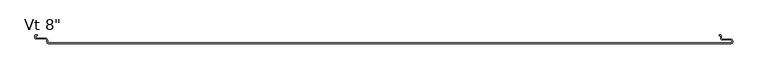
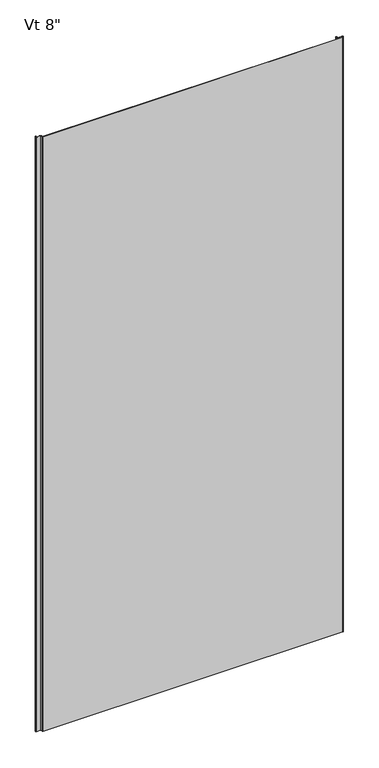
"""IFC4 building model written with IfcOpenShell, lengths in millimetres: plate geometry."""

import ifcopenshell
import ifcopenshell.guid

model = None  # the IFC model being written
_history = None  # IfcOwnerHistory: only IFC2X3 demands one
_inside = {}  # id of a spatial element -> (the spatial element, [elements in it])
_under = {}  # id of a project, library or spatial element -> (it, [spatial elements below it])
_declared = {}  # id of a project -> (the project, [libraries it declares])
_typed = {}  # id of a type object -> (the type object, [elements of that type])
_made_of = {}  # id of a material, layer set ... -> (it, [elements and type objects made of it])


def new_model(schema):
    """Start an empty IFC model of exactly this schema.

    Asked for "IFC4X3", IfcOpenShell would pick the latest addendum, in which some entities
    have other attributes; the version numbers below select the first issue.
    IFC2X3 requires an IfcOwnerHistory on every rooted entity: one is made here for all.
    """
    global model, _history
    if schema == "IFC4X3":
        model = ifcopenshell.file(schema_version=(4, 3, 0, 0))
    else:
        model = ifcopenshell.file(schema=schema)
    _inside.clear()
    _under.clear()
    _declared.clear()
    _typed.clear()
    _made_of.clear()
    _history = None
    if model.schema == "IFC2X3":
        org = make("IfcOrganization", Name="unknown")
        user = make(
            "IfcPersonAndOrganization",
            ThePerson=make("IfcPerson", FamilyName="unknown"),
            TheOrganization=org,
        )
        app = make(
            "IfcApplication",
            ApplicationDeveloper=org,
            Version="unknown",
            ApplicationFullName="unknown",
            ApplicationIdentifier="unknown",
        )
        _history = make(
            "IfcOwnerHistory",
            OwningUser=user,
            OwningApplication=app,
            ChangeAction="ADDED",
            CreationDate=0,
        )
    return model


def make(cls, **values):
    """One entity of the class cls with the attributes given. An attribute that is None is left unset."""
    return model.create_entity(
        cls, **{name: value for name, value in values.items() if value is not None}
    )


def rooted(cls, **values):
    """An entity with a GlobalId (a new one), such as an element, a storey or a relation."""
    return make(cls, GlobalId=ifcopenshell.guid.new(), OwnerHistory=_history, **values)


def si_unit(unit_type, name, prefix=None):
    """IfcSIUnit, for example si_unit("LENGTHUNIT", "METRE", prefix="MILLI")."""
    return make("IfcSIUnit", UnitType=unit_type, Prefix=prefix, Name=name)


def assignment(units):
    """IfcUnitAssignment: the units of a project."""
    return None if units is None else make("IfcUnitAssignment", Units=units)


def point(xyz):
    """IfcCartesianPoint."""
    return None if xyz is None else make("IfcCartesianPoint", Coordinates=xyz)


def direction(xyz):
    """IfcDirection."""
    return None if xyz is None else make("IfcDirection", DirectionRatios=xyz)


def frame(location, z_axis=None, x_axis=None):
    """IfcAxis2Placement3D, a coordinate frame: its origin and axes. An axis left out is left unset."""
    return make(
        "IfcAxis2Placement3D",
        Location=point(location),
        Axis=direction(z_axis),
        RefDirection=direction(x_axis),
    )


def origin():
    """The frame at (0, 0, 0) with its axes left unset."""
    return frame((0.0, 0.0, 0.0))


def place(relative_to, where):
    """IfcLocalPlacement: puts the frame where relative to a parent placement (None: the world)."""
    return make(
        "IfcLocalPlacement", PlacementRelTo=relative_to, RelativePlacement=where
    )


def context(
    kind, dimensions, precision=None, world=None, true_north=None, identifier=None
):
    """IfcGeometricRepresentationContext, for example the 3D "Model" context."""
    return make(
        "IfcGeometricRepresentationContext",
        ContextIdentifier=identifier,
        ContextType=kind,
        CoordinateSpaceDimension=dimensions,
        Precision=precision,
        WorldCoordinateSystem=world,
        TrueNorth=true_north,
    )


def project(units=None, contexts=None):
    """IfcProject with its units and contexts."""
    return rooted(
        "IfcProject",
        Name="project",
        RepresentationContexts=contexts,
        UnitsInContext=assignment(units),
    )


def spatial(cls, under=None, at=None, **own):
    """A site, building, storey or space (cls), placed at a placement, below another one or the project."""
    s = rooted(cls, ObjectPlacement=at, **own)
    if under is not None:
        _under.setdefault(under.id(), (under, []))[1].append(s)
    return s


def polyline(points):
    """IfcPolyline through the points."""
    return make("IfcPolyline", Points=[point(p) for p in points])


def circle_curve(where, radius):
    """IfcCircle in the frame where."""
    return make("IfcCircle", Position=where, Radius=radius)


def shape(context_of_items, identifier, shape_type, items):
    """IfcShapeRepresentation: the items that make up one representation, for example the "Body"."""
    return make(
        "IfcShapeRepresentation",
        ContextOfItems=context_of_items,
        RepresentationIdentifier=identifier,
        RepresentationType=shape_type,
        Items=items,
    )


def source(mapping_origin, context_of_items, identifier, shape_type, items):
    """IfcRepresentationMap: a shape defined once, which mapped items show again and again."""
    return make(
        "IfcRepresentationMap",
        MappingOrigin=mapping_origin,
        MappedRepresentation=shape(context_of_items, identifier, shape_type, items),
    )


def transform(
    local_origin,
    x_axis=None,
    y_axis=None,
    z_axis=None,
    scale=None,
    scale2=None,
    scale3=None,
    uniform=True,
):
    """IfcCartesianTransformationOperator3D, or its non-uniform kind. x_axis, y_axis, z_axis: its Axis1, 2, 3."""
    if uniform:
        return make(
            "IfcCartesianTransformationOperator3D",
            Axis1=direction(x_axis),
            Axis2=direction(y_axis),
            LocalOrigin=point(local_origin),
            Scale=scale,
            Axis3=direction(z_axis),
        )
    return make(
        "IfcCartesianTransformationOperator3DnonUniform",
        Axis1=direction(x_axis),
        Axis2=direction(y_axis),
        LocalOrigin=point(local_origin),
        Scale=scale,
        Axis3=direction(z_axis),
        Scale2=scale2,
        Scale3=scale3,
    )


def mapped(mapping_source, mapping_target):
    """IfcMappedItem: shows the shape of a source again, moved by a transform."""
    return make(
        "IfcMappedItem", MappingSource=mapping_source, MappingTarget=mapping_target
    )


def made_of(thing, what):
    """Note that an element or type object is made of a material, layer set ...; save() writes the relation."""
    if what is not None:
        _made_of.setdefault(what.id(), (what, []))[1].append(thing)
    return thing


def element(
    cls,
    number,
    at=None,
    inside=None,
    cuts=None,
    type_object=None,
    material=None,
    context=None,
    identifier="Body",
    shape_type=None,
    held_by="IfcProductDefinitionShape",
    body=None,
    shapes=None,
    **own,
):
    """One element of the class cls, such as IfcWall. Its Tag is "e" and its number.

    at: its placement. inside: the storey or other place that contains it. cuts: it is an
    opening in that element (IfcRelVoidsElement). A single representation is given by context,
    identifier, shape_type and body (its items); several are given by shapes. held_by: the class
    of the entity that holds the representations. save() writes the other relations.
    """
    e = rooted(cls, Tag="e%d" % number, ObjectPlacement=at, **own)
    if body is not None:
        shapes = [shape(context, identifier, shape_type, body)]
    if shapes is not None:
        e.Representation = make(held_by, Representations=shapes)
    if inside is not None:
        _inside.setdefault(inside.id(), (inside, []))[1].append(e)
    if cuts is not None:
        rooted(
            "IfcRelVoidsElement", RelatingBuildingElement=cuts, RelatedOpeningElement=e
        )
    if type_object is not None:
        _typed.setdefault(type_object.id(), (type_object, []))[1].append(e)
    return made_of(e, material)


def aggregate(whole, parts):
    """IfcRelAggregates: a whole, such as a stair, and the parts it consists of."""
    return rooted("IfcRelAggregates", RelatingObject=whole, RelatedObjects=parts)


def save(model, path):
    """Write the relations noted so far, then the file.

    IfcRelAggregates (storeys below a building ...), IfcRelContainedInSpatialStructure (elements
    in a storey), IfcRelDefinesByType, IfcRelAssociatesMaterial and IfcRelDeclares: one each for
    every whole, place, type object, material and project.
    """
    for whole, parts in _under.values():
        aggregate(whole, parts)
    for where, things in _inside.values():
        rooted(
            "IfcRelContainedInSpatialStructure",
            RelatedElements=things,
            RelatingStructure=where,
        )
    for kind, things in _typed.values():
        rooted("IfcRelDefinesByType", RelatedObjects=things, RelatingType=kind)
    for what, things in _made_of.values():
        rooted("IfcRelAssociatesMaterial", RelatedObjects=things, RelatingMaterial=what)
    for by, libraries in _declared.values():
        rooted("IfcRelDeclares", RelatingContext=by, RelatedDefinitions=libraries)
    model.write(path)


def plane_surface(at):
    """IfcPlane: the flat surface through the origin of the frame at, square to its z axis."""
    return make("IfcPlane", Position=at)


def cylinder_surface(at, radius):
    """IfcCylindricalSurface: all points at the distance radius from the z axis of the frame at."""
    return make("IfcCylindricalSurface", Position=at, Radius=radius)


def revolved_surface(curve, axis_point, axis_direction):
    """IfcSurfaceOfRevolution: the curve turned about the line through axis_point along axis_direction."""
    return make(
        "IfcSurfaceOfRevolution",
        SweptCurve=make("IfcArbitraryOpenProfileDef", ProfileType="CURVE", Curve=curve),
        AxisPosition=make("IfcAxis1Placement", Location=point(axis_point), Axis=direction(axis_direction)),
    )


def advanced_brep(points, edges, surfaces, faces):
    """IfcAdvancedBrep: a solid bounded by faces that lie on surfaces and meet in shared edges.

    An edge is (start, end): straight between two places in points (the first is 0);
    or (start, end, curve); or (start, end, curve, False) where it runs against its curve.
    A face is (place in surfaces, loops), or (place, loops, False) where it looks against
    its surface's normal. A loop lists edges by number (the first is 1), with a minus sign
    where the edge is run from its end to its start. The first loop is the outer one.
    """
    corners = [point(p) for p in points]
    vertices = [make("IfcVertexPoint", VertexGeometry=c) for c in corners]
    made = []
    for start, end, *more in edges:
        made.append(
            make(
                "IfcEdgeCurve",
                EdgeStart=vertices[start],
                EdgeEnd=vertices[end],
                EdgeGeometry=more[0] if more else make("IfcPolyline", Points=[corners[start], corners[end]]),
                SameSense=more[1] if len(more) > 1 else True,
            )
        )
    hull = []
    for where, loops, *sense in faces:
        bounds = []
        for j, loop in enumerate(loops):
            ring = [make("IfcOrientedEdge", EdgeElement=made[abs(k) - 1], Orientation=k > 0) for k in loop]
            bounds.append(
                make(
                    "IfcFaceOuterBound" if j == 0 else "IfcFaceBound",
                    Bound=make("IfcEdgeLoop", EdgeList=ring),
                    Orientation=True,
                )
            )
        hull.append(make("IfcAdvancedFace", Bounds=bounds, FaceSurface=surfaces[where], SameSense=sense[0] if sense else True))
    return make("IfcAdvancedBrep", Outer=make("IfcClosedShell", CfsFaces=hull))


def plate_8b274d8f(model_context):
    return source(origin(), model_context, "Body", "AdvancedBrep", [
        advanced_brep(
        [(-572.4123937, -200.2223811, 2400.0), (-572.4123937, -197.9308685, 2400.0), (-576.3897391, -193.9535232, 2400.0), (-591.9862514, -193.9535232, 2400.0), (-592.5741086, -193.365666, 2400.0), (-592.5741086, -190.2941346, 2400.0), (-591.9862374, -189.7062635, 2400.0), (-589.6312064, -189.7062635, 2400.0), (-589.6312064, -188.7062599, 2400.0), (-591.9862419, -188.7062599, 2400.0), (-593.5741185, -190.2941364, 2400.0), (-593.5741185, -193.3656851, 2400.0), (-591.9862419, -194.9535616, 2400.0), (-576.3898159, -194.9535616, 2400.0), (-573.4125474, -197.9308302, 2400.0), (-573.4125474, -200.222714, 2400.0), (-570.4352789, -203.1999825, 2400.0), (574.5475652, -203.2, 2400.0), (577.5248337, -200.2227315, 2400.0), (577.5248337, -199.1806329, 2400.0), (574.5475652, -196.2033644, 2400.0), (560.3591801, -196.2033644, 2400.0), (558.7713036, -194.6154878, 2400.0), (558.7713036, -190.2950697, 2400.0), (557.1304042, -188.7066023, 2400.0), (554.7857432, -188.7066023, 2400.0), (554.7857432, -189.7060472, 2400.0), (557.1628599, -189.7060472, 2400.0), (557.7713971, -190.2950842, 2400.0), (557.7713971, -194.6153166, 2400.0), (560.3590971, -197.2030166, 2400.0), (574.5482568, -197.2030166, 2400.0), (576.5262182, -199.180978, 2400.0), (576.5262182, -200.22341, 2400.0), (574.550337, -202.1992912, 2400.0), (-570.4354837, -202.1992912, 2400.0), (-572.4123937, -200.2223811, 0.0), (-570.4354837, -202.1992912, 0.0), (574.550337, -202.1992912, 0.0), (576.5262182, -200.22341, 0.0), (576.5262182, -199.180978, 0.0), (574.5482568, -197.2030166, 0.0), (560.3590971, -197.2030166, 0.0), (557.7713971, -194.6153166, 0.0), (557.7713971, -190.2950842, 0.0), (557.1628599, -189.7060472, 0.0), (554.7857432, -189.7060472, 0.0), (554.7857432, -188.7066023, 0.0), (557.1304042, -188.7066023, 0.0), (558.7713036, -190.2950697, 0.0), (558.7713036, -194.6154878, 0.0), (560.3591801, -196.2033644, 0.0), (574.5475652, -196.2033644, 0.0), (577.5248337, -199.1806329, 0.0), (577.5248337, -200.2227315, 0.0), (574.5475652, -203.2, 0.0), (-570.4352789, -203.2, 0.0), (-573.4125474, -200.222714, 0.0), (-573.4125474, -197.9308302, 0.0), (-576.3898159, -194.9535616, 0.0), (-591.9862419, -194.9535616, 0.0), (-593.5741185, -193.3656851, 0.0), (-593.5741185, -190.2941364, 0.0), (-591.9862419, -188.7062599, 0.0), (-589.6312064, -188.7062599, 0.0), (-589.6312064, -189.7062635, 0.0), (-591.9862374, -189.7062635, 0.0), (-592.5741086, -190.2941346, 0.0), (-592.5741086, -193.365666, 0.0), (-591.9862514, -193.9535232, 0.0), (-576.3897391, -193.9535232, 0.0), (-572.4123937, -197.9308685, 0.0)],
        [
            (0, 1),
            (1, 2, circle_curve(frame((-576.3897391, -197.9308685, 2400.0), z_axis=(0.0, 0.0, 1.0), x_axis=(-1.0, 0.0, 0.0)), 3.9773454)),
            (2, 3),
            (3, 4, circle_curve(frame((-591.9862514, -193.365666, 2400.0), z_axis=(0.0, 0.0, -1.0), x_axis=(-1.0, 0.0, 0.0)), 0.5878572)),
            (4, 5),
            (5, 6, circle_curve(frame((-591.9862374, -190.2941346, 2400.0), z_axis=(0.0, 0.0, -1.0), x_axis=(-1.0, 0.0, 0.0)), 0.5878711)),
            (6, 7),
            (7, 8),
            (8, 9),
            (9, 10, circle_curve(frame((-591.9862419, -190.2941364, 2400.0), z_axis=(0.0, 0.0, 1.0), x_axis=(-1.0, 0.0, 0.0)), 1.5878765)),
            (10, 11),
            (11, 12, circle_curve(frame((-591.9862419, -193.3656851, 2400.0), z_axis=(0.0, 0.0, 1.0), x_axis=(-1.0, 0.0, 0.0)), 1.5878765)),
            (12, 13),
            (13, 14, circle_curve(frame((-576.3898159, -197.9308302, 2400.0), z_axis=(0.0, 0.0, -1.0), x_axis=(-1.0, 0.0, 0.0)), 2.9772685)),
            (14, 15),
            (15, 16, circle_curve(frame((-570.4352789, -200.222714, 2400.0), z_axis=(0.0, 0.0, 1.0), x_axis=(-1.0, 0.0, 0.0)), 2.9772685)),
            (16, 17),
            (17, 18, circle_curve(frame((574.5475652, -200.2227315, 2400.0), z_axis=(0.0, 0.0, 1.0), x_axis=(-1.0, 0.0, 0.0)), 2.9772685)),
            (18, 19),
            (19, 20, circle_curve(frame((574.5475652, -199.1806329, 2400.0), z_axis=(0.0, 0.0, 1.0), x_axis=(-1.0, 0.0, 0.0)), 2.9772685)),
            (20, 21),
            (21, 22, circle_curve(frame((560.3591801, -194.6154878, 2400.0), z_axis=(0.0, 0.0, -1.0), x_axis=(-1.0, 0.0, 0.0)), 1.5878765)),
            (22, 23),
            (23, 24, circle_curve(frame((557.1819985, -190.2950697, 2400.0), z_axis=(0.0, 0.0, 1.0), x_axis=(-1.0, 0.0, 0.0)), 1.5893051)),
            (24, 25),
            (25, 26),
            (26, 27),
            (27, 28, circle_curve(frame((557.1820477, -190.2950842, 2400.0), z_axis=(0.0, 0.0, -1.0), x_axis=(-1.0, 0.0, 0.0)), 0.5893495)),
            (28, 29),
            (29, 30, circle_curve(frame((560.3590971, -194.6153166, 2400.0), z_axis=(0.0, 0.0, 1.0), x_axis=(-1.0, 0.0, 0.0)), 2.5877)),
            (30, 31),
            (31, 32, circle_curve(frame((574.5482568, -199.180978, 2400.0), z_axis=(0.0, 0.0, -1.0), x_axis=(-1.0, 0.0, 0.0)), 1.9779614)),
            (32, 33),
            (33, 34, circle_curve(frame((574.550337, -200.22341, 2400.0), z_axis=(0.0, 0.0, -1.0), x_axis=(-1.0, 0.0, 0.0)), 1.9758812)),
            (34, 35),
            (35, 0, circle_curve(frame((-570.4354837, -200.2223811, 2400.0), z_axis=(0.0, 0.0, -1.0), x_axis=(-1.0, 0.0, 0.0)), 1.9769101)),
            (36, 37, circle_curve(frame((-570.4354837, -200.2223811, 0.0), z_axis=(0.0, 0.0, 1.0), x_axis=(-1.0, 0.0, 0.0)), 1.9769101)),
            (37, 38),
            (38, 39, circle_curve(frame((574.550337, -200.22341, 0.0), z_axis=(0.0, 0.0, 1.0), x_axis=(-1.0, 0.0, 0.0)), 1.9758812)),
            (39, 40),
            (40, 41, circle_curve(frame((574.5482568, -199.180978, 0.0), z_axis=(0.0, 0.0, 1.0), x_axis=(-1.0, 0.0, 0.0)), 1.9779614)),
            (41, 42),
            (42, 43, circle_curve(frame((560.3590971, -194.6153166, 0.0), z_axis=(0.0, 0.0, -1.0), x_axis=(-1.0, 0.0, 0.0)), 2.5877)),
            (43, 44),
            (44, 45, circle_curve(frame((557.1820477, -190.2950842, 0.0), z_axis=(0.0, 0.0, 1.0), x_axis=(-1.0, 0.0, 0.0)), 0.5893495)),
            (45, 46),
            (46, 47),
            (47, 48),
            (48, 49, circle_curve(frame((557.1819985, -190.2950697, 0.0), z_axis=(0.0, 0.0, -1.0), x_axis=(-1.0, 0.0, 0.0)), 1.5893051)),
            (49, 50),
            (50, 51, circle_curve(frame((560.3591801, -194.6154878, 0.0), z_axis=(0.0, 0.0, 1.0), x_axis=(-1.0, 0.0, 0.0)), 1.5878765)),
            (51, 52),
            (52, 53, circle_curve(frame((574.5475652, -199.1806329, 0.0), z_axis=(0.0, 0.0, -1.0), x_axis=(-1.0, 0.0, 0.0)), 2.9772685)),
            (53, 54),
            (54, 55, circle_curve(frame((574.5475652, -200.2227315, 0.0), z_axis=(0.0, 0.0, -1.0), x_axis=(-1.0, 0.0, 0.0)), 2.9772685)),
            (55, 56),
            (56, 57, circle_curve(frame((-570.4352789, -200.222714, 0.0), z_axis=(0.0, 0.0, -1.0), x_axis=(-1.0, 0.0, 0.0)), 2.9772685)),
            (57, 58),
            (58, 59, circle_curve(frame((-576.3898159, -197.9308302, 0.0), z_axis=(0.0, 0.0, 1.0), x_axis=(-1.0, 0.0, 0.0)), 2.9772685)),
            (59, 60),
            (60, 61, circle_curve(frame((-591.9862419, -193.3656851, 0.0), z_axis=(0.0, 0.0, -1.0), x_axis=(-1.0, 0.0, 0.0)), 1.5878765)),
            (61, 62),
            (62, 63, circle_curve(frame((-591.9862419, -190.2941364, 0.0), z_axis=(0.0, 0.0, -1.0), x_axis=(-1.0, 0.0, 0.0)), 1.5878765)),
            (63, 64),
            (64, 65),
            (65, 66),
            (66, 67, circle_curve(frame((-591.9862374, -190.2941346, 0.0), z_axis=(0.0, 0.0, 1.0), x_axis=(-1.0, 0.0, 0.0)), 0.5878711)),
            (67, 68),
            (68, 69, circle_curve(frame((-591.9862514, -193.365666, 0.0), z_axis=(0.0, 0.0, 1.0), x_axis=(-1.0, 0.0, 0.0)), 0.5878572)),
            (69, 70),
            (70, 71, circle_curve(frame((-576.3897391, -197.9308685, 0.0), z_axis=(0.0, 0.0, -1.0), x_axis=(-1.0, 0.0, 0.0)), 3.9773454)),
            (71, 36),
            (23, 49),
            (48, 24),
            (22, 50),
            (21, 51),
            (20, 52),
            (19, 53),
            (17, 55),
            (54, 18),
            (32, 40),
            (39, 33),
            (38, 34),
            (16, 56),
            (37, 35),
            (36, 0),
            (71, 1),
            (70, 2),
            (69, 3),
            (4, 68),
            (67, 5),
            (66, 6),
            (65, 7),
            (64, 8),
            (63, 9),
            (62, 10),
            (61, 11),
            (60, 12),
            (59, 13),
            (58, 14),
            (57, 15),
            (31, 41),
            (30, 42),
            (29, 43),
            (28, 44),
            (27, 45),
            (26, 46),
            (25, 47),
        ],
        [
            plane_surface(frame((0.0, -203.2, 2400.0), z_axis=(0.0, 0.0, 1.0), x_axis=(0.0, -1.0, 0.0))),
            plane_surface(frame((0.0, -203.2, 0.0), z_axis=(0.0, 0.0, -1.0), x_axis=(0.0, -1.0, 0.0))),
            cylinder_surface(frame((557.1819985, -190.2950697, 2400.0), z_axis=(0.0, 0.0, 1.0), x_axis=(-1.0, 0.0, 0.0)), 1.5893051),
            plane_surface(frame((558.7713036, -190.2950697, 2400.0), z_axis=(1.0, 0.0, 0.0), x_axis=(0.0, 0.0, -1.0))),
            revolved_surface(polyline([(558.7713036, -194.6154878, 0.0), (558.7713036, -194.6154878, 2400.0)]), (560.3591801, -194.6154878, 2400.0), (0.0, 0.0, -1.0)),
            plane_surface(frame((560.3591801, -196.2033644, 2400.0), z_axis=(0.0, 1.0, 0.0), x_axis=(0.0, 0.0, -1.0))),
            cylinder_surface(frame((574.5475652, -199.1806329, 2400.0), z_axis=(0.0, 0.0, 1.0), x_axis=(-1.0, 0.0, 0.0)), 2.9772685),
            cylinder_surface(frame((574.5475652, -200.2227315, 2400.0), z_axis=(0.0, 0.0, 1.0), x_axis=(-1.0, 0.0, 0.0)), 2.9772685),
            plane_surface(frame((576.5262182, -200.22341, 2400.0), z_axis=(-1.0, 0.0, 0.0), x_axis=(0.0, 0.0, -1.0))),
            plane_surface(frame((577.5248337, -199.1806329, 2400.0), z_axis=(1.0, 0.0, 0.0), x_axis=(0.0, 0.0, -1.0))),
            revolved_surface(polyline([(572.5744558, -200.22341, 0.0), (572.5744558, -200.22341, 2400.0)]), (574.550337, -200.22341, 2400.0), (0.0, 0.0, -1.0)),
            plane_surface(frame((574.5475652, -203.2, 2400.0), z_axis=(0.0, -1.0, 0.0), x_axis=(0.0, 0.0, -1.0))),
            plane_surface(frame((-570.4354837, -202.1992912, 2400.0), z_axis=(0.0, 1.0, 0.0), x_axis=(0.0, 0.0, -1.0))),
            revolved_surface(polyline([(-572.4123938, -200.2223811, 0.0), (-572.4123938, -200.2223811, 2400.0)]), (-570.4354837, -200.2223811, 2400.0), (0.0, 0.0, -1.0)),
            plane_surface(frame((-572.4123937, -197.9308685, 2400.0), z_axis=(1.0, 0.0, 0.0), x_axis=(0.0, 0.0, -1.0))),
            cylinder_surface(frame((-576.3897391, -197.9308685, 2400.0), z_axis=(0.0, 0.0, 1.0), x_axis=(-1.0, 0.0, 0.0)), 3.9773454),
            plane_surface(frame((-591.9862514, -193.9535232, 2400.0), z_axis=(0.0, 1.0, 0.0), x_axis=(0.0, 0.0, -1.0))),
            plane_surface(frame((-592.5741086, -190.2941346, 2400.0), z_axis=(1.0, 0.0, 0.0), x_axis=(0.0, 0.0, -1.0))),
            revolved_surface(polyline([(-592.5741085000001, -190.2941346, 0.0), (-592.5741085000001, -190.2941346, 2400.0)]), (-591.9862374, -190.2941346, 2400.0), (0.0, 0.0, -1.0)),
            plane_surface(frame((-589.6312064, -189.7062635, 2400.0), z_axis=(0.0, -1.0, 0.0), x_axis=(0.0, 0.0, -1.0))),
            plane_surface(frame((-589.6312064, -188.7062599, 2400.0), z_axis=(1.0, 0.0, 0.0), x_axis=(0.0, 0.0, -1.0))),
            plane_surface(frame((-591.9862419, -188.7062599, 2400.0), z_axis=(0.0, 1.0, 0.0), x_axis=(0.0, 0.0, -1.0))),
            cylinder_surface(frame((-591.9862419, -190.2941364, 2400.0), z_axis=(0.0, 0.0, 1.0), x_axis=(-1.0, 0.0, 0.0)), 1.5878765),
            plane_surface(frame((-593.5741185, -193.3656851, 2400.0), z_axis=(-1.0, 0.0, 0.0), x_axis=(0.0, 0.0, -1.0))),
            cylinder_surface(frame((-591.9862419, -193.3656851, 2400.0), z_axis=(0.0, 0.0, 1.0), x_axis=(-1.0, 0.0, 0.0)), 1.5878765),
            plane_surface(frame((-576.3898159, -194.9535616, 2400.0), z_axis=(0.0, -1.0, 0.0), x_axis=(0.0, 0.0, -1.0))),
            revolved_surface(polyline([(-579.3670844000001, -197.9308302, 0.0), (-579.3670844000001, -197.9308302, 2400.0)]), (-576.3898159, -197.9308302, 2400.0), (0.0, 0.0, -1.0)),
            plane_surface(frame((-573.4125474, -200.222714, 2400.0), z_axis=(-1.0, 0.0, 0.0), x_axis=(0.0, 0.0, -1.0))),
            cylinder_surface(frame((-570.4352789, -200.222714, 2400.0), z_axis=(0.0, 0.0, 1.0), x_axis=(-1.0, 0.0, 0.0)), 2.9772685),
            revolved_surface(polyline([(-592.5741086, -193.365666, 0.0), (-592.5741086, -193.365666, 2400.0)]), (-591.9862514, -193.365666, 2400.0), (0.0, 0.0, -1.0)),
            revolved_surface(polyline([(572.5702954, -199.180978, 0.0), (572.5702954, -199.180978, 2400.0)]), (574.5482568, -199.180978, 2400.0), (0.0, 0.0, -1.0)),
            plane_surface(frame((574.5482568, -197.2030166, 2400.0), z_axis=(0.0, -1.0, 0.0), x_axis=(0.0, 0.0, -1.0))),
            cylinder_surface(frame((560.3590971, -194.6153166, 2400.0), z_axis=(0.0, 0.0, 1.0), x_axis=(-1.0, 0.0, 0.0)), 2.5877),
            plane_surface(frame((557.7713971, -194.6153166, 2400.0), z_axis=(-1.0, 0.0, 0.0), x_axis=(0.0, 0.0, -1.0))),
            revolved_surface(polyline([(556.5926982, -190.2950842, 0.0), (556.5926982, -190.2950842, 2400.0)]), (557.1820477, -190.2950842, 2400.0), (0.0, 0.0, -1.0)),
            plane_surface(frame((557.1628599, -189.7060472, 2400.0), z_axis=(0.0, -1.0, 0.0), x_axis=(0.0, 0.0, -1.0))),
            plane_surface(frame((554.7857432, -189.7060472, 2400.0), z_axis=(-1.0, 0.0, 0.0), x_axis=(0.0, 0.0, -1.0))),
            plane_surface(frame((554.7857432, -188.7066023, 2400.0), z_axis=(0.0, 1.0, 0.0), x_axis=(0.0, 0.0, -1.0))),
        ],
        [
            (0, [[1, 2, 3, 4, 5, 6, 7, 8, 9, 10, 11, 12, 13, 14, 15, 16, 17, 18, 19, 20, 21, 22, 23, 24, 25, 26, 27, 28, 29, 30, 31, 32, 33, 34, 35, 36]]),
            (1, [[37, 38, 39, 40, 41, 42, 43, 44, 45, 46, 47, 48, 49, 50, 51, 52, 53, 54, 55, 56, 57, 58, 59, 60, 61, 62, 63, 64, 65, 66, 67, 68, 69, 70, 71, 72]]),
            (2, [[73, -49, 74, -24]]),
            (3, [[75, -50, -73, -23]]),
            (4, [[76, -51, -75, -22]]),
            (5, [[77, -52, -76, -21]]),
            (6, [[78, -53, -77, -20]]),
            (7, [[79, -55, 80, -18]]),
            (8, [[81, -40, 82, -33]]),
            (9, [[-80, -54, -78, -19]]),
            (10, [[-82, -39, 83, -34]]),
            (11, [[84, -56, -79, -17]]),
            (12, [[-83, -38, 85, -35]]),
            (13, [[-85, -37, 86, -36]]),
            (14, [[-86, -72, 87, -1]]),
            (15, [[-87, -71, 88, -2]]),
            (16, [[-88, -70, 89, -3]]),
            (17, [[90, -68, 91, -5]]),
            (18, [[-91, -67, 92, -6]]),
            (19, [[-92, -66, 93, -7]]),
            (20, [[-93, -65, 94, -8]]),
            (21, [[-94, -64, 95, -9]]),
            (22, [[-95, -63, 96, -10]]),
            (23, [[-96, -62, 97, -11]]),
            (24, [[-97, -61, 98, -12]]),
            (25, [[-98, -60, 99, -13]]),
            (26, [[-99, -59, 100, -14]]),
            (27, [[-100, -58, 101, -15]]),
            (28, [[-101, -57, -84, -16]]),
            (29, [[-89, -69, -90, -4]]),
            (30, [[102, -41, -81, -32]]),
            (31, [[103, -42, -102, -31]]),
            (32, [[104, -43, -103, -30]]),
            (33, [[105, -44, -104, -29]]),
            (34, [[106, -45, -105, -28]]),
            (35, [[107, -46, -106, -27]]),
            (36, [[108, -47, -107, -26]]),
            (37, [[-74, -48, -108, -25]]),
        ],
    ),
    ])


if __name__ == "__main__":
    model = new_model("IFC4")
    model_context = context("Model", 3, world=origin())
    ifc_project = project(units=[si_unit("LENGTHUNIT", "METRE", prefix="MILLI")], contexts=[model_context])
    site = spatial("IfcSite", under=ifc_project)
    building = spatial("IfcBuilding", under=site)
    placement = place(None, origin())
    plate_shape = plate_8b274d8f(model_context)
    element("IfcPlate", 1, ObjectType="KIP-SLI-FLI-R19-CP-Vt-FL_SL : Vt 8\"", at=placement, inside=building, context=model_context, shape_type="MappedRepresentation", body=[
        mapped(plate_shape, transform((0.0, 0.0, 0.0), x_axis=(1.0, 0.0, 0.0), y_axis=(0.0, 1.0, 0.0), z_axis=(0.0, 0.0, 1.0))),
    ])
    save(model, "model.ifc")
